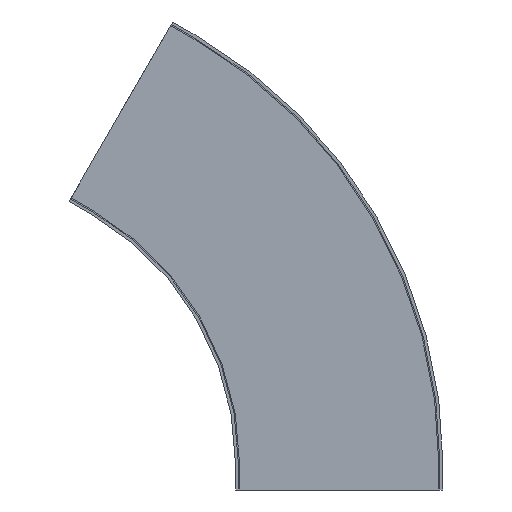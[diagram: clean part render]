
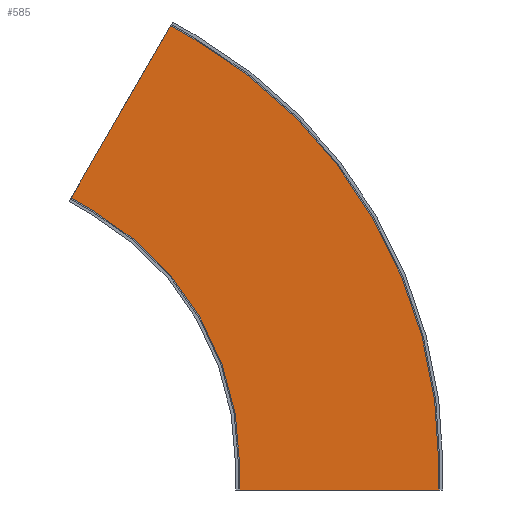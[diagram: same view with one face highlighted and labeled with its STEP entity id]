
A CAD part, front view. The second image highlights one B-rep face of the part: STEP entity #585.
In plain terms, the highlighted planar face has unit normal (0, -1, 0).
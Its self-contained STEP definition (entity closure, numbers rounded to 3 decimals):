
#13 = LINE ( 'NONE', #676, #407 ) ;
#48 = FACE_OUTER_BOUND ( 'NONE', #1992, .T. ) ;
#84 = CARTESIAN_POINT ( 'NONE',  ( 0., -68.25, 0. ) ) ;
#98 = CARTESIAN_POINT ( 'NONE',  ( 0., -68.25, 0. ) ) ;
#102 = VERTEX_POINT ( 'NONE', #1605 ) ;
#133 = EDGE_CURVE ( 'NONE', #102, #2026, #1886, .T. ) ;
#246 = DIRECTION ( 'NONE',  ( -1., 0., 0. ) ) ;
#257 = AXIS2_PLACEMENT_3D ( 'NONE', #98, #2183, #842 ) ;
#275 = ORIENTED_EDGE ( 'NONE', *, *, #1944, .F. ) ;
#277 = DIRECTION ( 'NONE',  ( 0., 1., 0. ) ) ;
#395 = ORIENTED_EDGE ( 'NONE', *, *, #1356, .F. ) ;
#407 = VECTOR ( 'NONE', #2396, 1000. ) ;
#411 = ORIENTED_EDGE ( 'NONE', *, *, #2329, .F. ) ;
#467 = CARTESIAN_POINT ( 'NONE',  ( 456.134, -68.25, 895.047 ) ) ;
#477 = VERTEX_POINT ( 'NONE', #966 ) ;
#478 = AXIS2_PLACEMENT_3D ( 'NONE', #1968, #832, #2327 ) ;
#481 = DIRECTION ( 'NONE',  ( 0.5, 0., 0.866 ) ) ;
#520 = LINE ( 'NONE', #2422, #1532 ) ;
#530 = CARTESIAN_POINT ( 'NONE',  ( 1003.2, -68.25, -52.5 ) ) ;
#585 = ADVANCED_FACE ( 'NONE', ( #48 ), #1003, .F. ) ;
#641 = LINE ( 'NONE', #1868, #1692 ) ;
#670 = VECTOR ( 'NONE', #246, 1000. ) ;
#676 = CARTESIAN_POINT ( 'NONE',  ( 456.134, -68.25, 895.047 ) ) ;
#694 = LINE ( 'NONE', #2009, #1634 ) ;
#726 = CARTESIAN_POINT ( 'NONE',  ( 252.934, -68.25, 543.094 ) ) ;
#788 = EDGE_CURVE ( 'NONE', #1891, #2438, #13, .T. ) ;
#832 = DIRECTION ( 'NONE',  ( 0., 1., 0. ) ) ;
#842 = DIRECTION ( 'NONE',  ( -1., 0., 0. ) ) ;
#851 = LINE ( 'NONE', #726, #2468 ) ;
#871 = CARTESIAN_POINT ( 'NONE',  ( 501.6, -68.25, 868.797 ) ) ;
#966 = CARTESIAN_POINT ( 'NONE',  ( 1003.2, -68.25, 0. ) ) ;
#1003 = PLANE ( 'NONE',  #478 ) ;
#1005 = ORIENTED_EDGE ( 'NONE', *, *, #1725, .T. ) ;
#1115 = DIRECTION ( 'NONE',  ( 0., 0., 1. ) ) ;
#1232 = LINE ( 'NONE', #1816, #670 ) ;
#1356 = EDGE_CURVE ( 'NONE', #2438, #477, #1533, .T. ) ;
#1458 = CARTESIAN_POINT ( 'NONE',  ( 596.8, -68.25, 0. ) ) ;
#1474 = ORIENTED_EDGE ( 'NONE', *, *, #788, .F. ) ;
#1516 = EDGE_CURVE ( 'NONE', #1976, #102, #851, .T. ) ;
#1532 = VECTOR ( 'NONE', #1115, 1000. ) ;
#1533 = CIRCLE ( 'NONE', #2088, 1003.2 ) ;
#1605 = CARTESIAN_POINT ( 'NONE',  ( 298.4, -68.25, 516.844 ) ) ;
#1627 = DIRECTION ( 'NONE',  ( -1., 0., 0. ) ) ;
#1634 = VECTOR ( 'NONE', #481, 1000. ) ;
#1692 = VECTOR ( 'NONE', #2441, 1000. ) ;
#1709 = EDGE_CURVE ( 'NONE', #1892, #2026, #641, .T. ) ;
#1725 = EDGE_CURVE ( 'NONE', #2102, #477, #520, .T. ) ;
#1816 = CARTESIAN_POINT ( 'NONE',  ( 0., -68.25, -52.5 ) ) ;
#1830 = ORIENTED_EDGE ( 'NONE', *, *, #1709, .F. ) ;
#1868 = CARTESIAN_POINT ( 'NONE',  ( 596.8, -68.25, -52.5 ) ) ;
#1886 = CIRCLE ( 'NONE', #257, 596.8 ) ;
#1891 = VERTEX_POINT ( 'NONE', #467 ) ;
#1892 = VERTEX_POINT ( 'NONE', #2127 ) ;
#1944 = EDGE_CURVE ( 'NONE', #2102, #1892, #1232, .T. ) ;
#1968 = CARTESIAN_POINT ( 'NONE',  ( 298.4, -68.25, 516.844 ) ) ;
#1976 = VERTEX_POINT ( 'NONE', #2430 ) ;
#1981 = ORIENTED_EDGE ( 'NONE', *, *, #1516, .T. ) ;
#1992 = EDGE_LOOP ( 'NONE', ( #2042, #1830, #275, #1005, #395, #1474, #411, #1981 ) ) ;
#2009 = CARTESIAN_POINT ( 'NONE',  ( -45.466, -68.25, 26.25 ) ) ;
#2026 = VERTEX_POINT ( 'NONE', #1458 ) ;
#2042 = ORIENTED_EDGE ( 'NONE', *, *, #133, .T. ) ;
#2075 = DIRECTION ( 'NONE',  ( 0.866, 0., -0.5 ) ) ;
#2088 = AXIS2_PLACEMENT_3D ( 'NONE', #84, #277, #1627 ) ;
#2102 = VERTEX_POINT ( 'NONE', #530 ) ;
#2127 = CARTESIAN_POINT ( 'NONE',  ( 596.8, -68.25, -52.5 ) ) ;
#2183 = DIRECTION ( 'NONE',  ( 0., 1., 0. ) ) ;
#2327 = DIRECTION ( 'NONE',  ( -1., 0., 0. ) ) ;
#2329 = EDGE_CURVE ( 'NONE', #1976, #1891, #694, .T. ) ;
#2396 = DIRECTION ( 'NONE',  ( 0.866, 0., -0.5 ) ) ;
#2422 = CARTESIAN_POINT ( 'NONE',  ( 1003.2, -68.25, -52.5 ) ) ;
#2430 = CARTESIAN_POINT ( 'NONE',  ( 252.934, -68.25, 543.094 ) ) ;
#2438 = VERTEX_POINT ( 'NONE', #871 ) ;
#2441 = DIRECTION ( 'NONE',  ( 0., 0., 1. ) ) ;
#2468 = VECTOR ( 'NONE', #2075, 1000. ) ;
